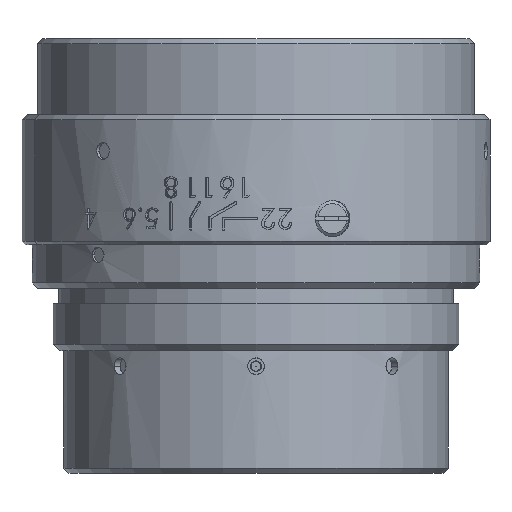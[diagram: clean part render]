
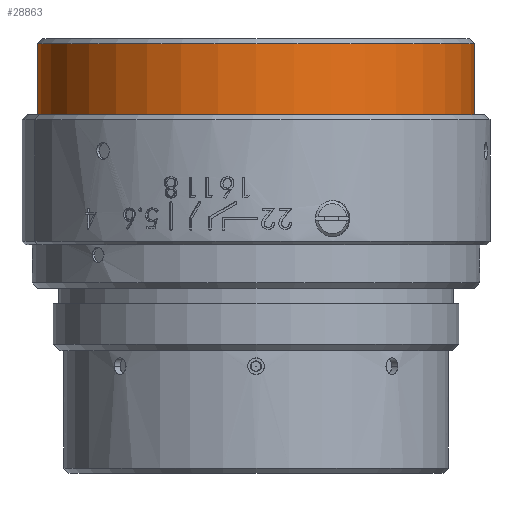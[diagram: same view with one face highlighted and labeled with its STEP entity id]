
A CAD part, front view. The second image highlights one B-rep face of the part: STEP entity #28863.
In plain terms, the highlighted cylindrical face has radius 21 mm (diameter 42 mm), a partial arc.
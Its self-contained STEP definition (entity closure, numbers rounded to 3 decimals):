
#489 = CARTESIAN_POINT ( 'NONE',  ( 0., 0., 24.874 ) ) ;
#1010 = DIRECTION ( 'NONE',  ( 1., 0., 0. ) ) ;
#1515 = CARTESIAN_POINT ( 'NONE',  ( 21., 0., 24.874 ) ) ;
#1940 = CYLINDRICAL_SURFACE ( 'NONE', #13973, 21. ) ;
#2689 = DIRECTION ( 'NONE',  ( 0., 0., 1. ) ) ;
#3032 = DIRECTION ( 'NONE',  ( 0., 0., 1. ) ) ;
#5364 = AXIS2_PLACEMENT_3D ( 'NONE', #7245, #31575, #28496 ) ;
#6255 = LINE ( 'NONE', #33148, #32394 ) ;
#6712 = CARTESIAN_POINT ( 'NONE',  ( 21., 0., 20.74 ) ) ;
#7245 = CARTESIAN_POINT ( 'NONE',  ( 0., 0., 20.74 ) ) ;
#7933 = ORIENTED_EDGE ( 'NONE', *, *, #29853, .T. ) ;
#8621 = CARTESIAN_POINT ( 'NONE',  ( 0., 0., 13.429 ) ) ;
#9877 = CIRCLE ( 'NONE', #5364, 21. ) ;
#10010 = VERTEX_POINT ( 'NONE', #27735 ) ;
#13973 = AXIS2_PLACEMENT_3D ( 'NONE', #489, #27656, #1010 ) ;
#15909 = CARTESIAN_POINT ( 'NONE',  ( -21., 0., 20.74 ) ) ;
#16599 = EDGE_LOOP ( 'NONE', ( #38887, #35618, #7933, #35768 ) ) ;
#17701 = EDGE_CURVE ( 'NONE', #27302, #21715, #6255, .T. ) ;
#21090 = CIRCLE ( 'NONE', #37250, 21. ) ;
#21715 = VERTEX_POINT ( 'NONE', #15909 ) ;
#23278 = EDGE_CURVE ( 'NONE', #26376, #21715, #9877, .T. ) ;
#25116 = VECTOR ( 'NONE', #31768, 1000. ) ;
#26376 = VERTEX_POINT ( 'NONE', #6712 ) ;
#27054 = FACE_OUTER_BOUND ( 'NONE', #16599, .T. ) ;
#27302 = VERTEX_POINT ( 'NONE', #34127 ) ;
#27656 = DIRECTION ( 'NONE',  ( 0., 0., 1. ) ) ;
#27735 = CARTESIAN_POINT ( 'NONE',  ( 21., 0., 13.429 ) ) ;
#28496 = DIRECTION ( 'NONE',  ( -1., 0., 0. ) ) ;
#28863 = ADVANCED_FACE ( 'NONE', ( #27054 ), #1940, .T. ) ;
#29853 = EDGE_CURVE ( 'NONE', #10010, #26376, #30875, .T. ) ;
#29869 = DIRECTION ( 'NONE',  ( -1., 0., 0. ) ) ;
#30875 = LINE ( 'NONE', #1515, #25116 ) ;
#31575 = DIRECTION ( 'NONE',  ( 0., 0., -1. ) ) ;
#31768 = DIRECTION ( 'NONE',  ( 0., 0., 1. ) ) ;
#32394 = VECTOR ( 'NONE', #3032, 1000. ) ;
#33148 = CARTESIAN_POINT ( 'NONE',  ( -21., 0., 24.874 ) ) ;
#34127 = CARTESIAN_POINT ( 'NONE',  ( -21., 0., 13.429 ) ) ;
#35618 = ORIENTED_EDGE ( 'NONE', *, *, #37573, .T. ) ;
#35768 = ORIENTED_EDGE ( 'NONE', *, *, #23278, .T. ) ;
#37250 = AXIS2_PLACEMENT_3D ( 'NONE', #8621, #2689, #29869 ) ;
#37573 = EDGE_CURVE ( 'NONE', #27302, #10010, #21090, .T. ) ;
#38887 = ORIENTED_EDGE ( 'NONE', *, *, #17701, .F. ) ;
